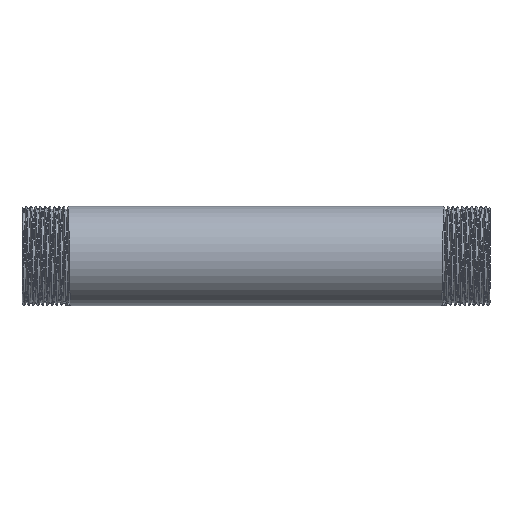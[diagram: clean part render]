
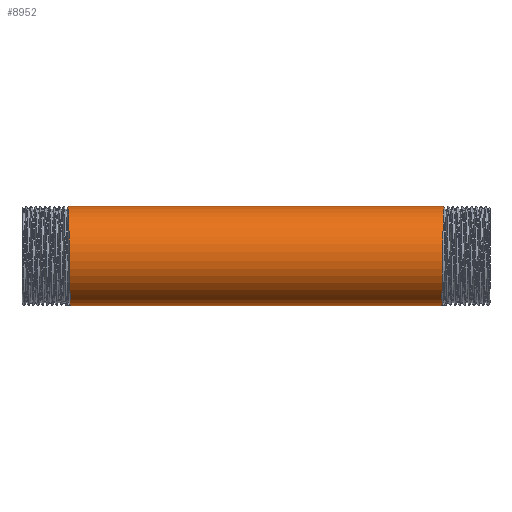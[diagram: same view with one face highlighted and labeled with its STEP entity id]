
A CAD part, front view. The second image highlights one B-rep face of the part: STEP entity #8952.
In plain terms, the highlighted cylindrical face has radius 21.2 mm (diameter 42.4 mm), a partial arc.
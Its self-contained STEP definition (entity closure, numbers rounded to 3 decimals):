
#660 = CARTESIAN_POINT ( 'NONE',  ( 79.95, -18.034, 13.102 ) ) ;
#959 = ORIENTED_EDGE ( 'NONE', *, *, #2926, .F. ) ;
#967 = ORIENTED_EDGE ( 'NONE', *, *, #2852, .T. ) ;
#1470 = DIRECTION ( 'NONE',  ( -1., 0., 0. ) ) ;
#1952 = CARTESIAN_POINT ( 'NONE',  ( -79.25, 0., -21.2 ) ) ;
#2092 = CARTESIAN_POINT ( 'NONE',  ( 80.25, 0., 21.2 ) ) ;
#2140 = CARTESIAN_POINT ( 'NONE',  ( -80.05, -12.461, 17.151 ) ) ;
#2211 = CYLINDRICAL_SURFACE ( 'NONE', #6975, 21.2 ) ;
#2386 = LINE ( 'NONE', #5383, #2625 ) ;
#2625 = VECTOR ( 'NONE', #3124, 1000. ) ;
#2655 = EDGE_LOOP ( 'NONE', ( #959, #967, #2881, #6665 ) ) ;
#2852 = EDGE_CURVE ( 'NONE', #8132, #6094, #8875, .T. ) ;
#2881 = ORIENTED_EDGE ( 'NONE', *, *, #5175, .T. ) ;
#2926 = EDGE_CURVE ( 'NONE', #8132, #9568, #7348, .T. ) ;
#3124 = DIRECTION ( 'NONE',  ( -1., 0., 0. ) ) ;
#3195 = VERTEX_POINT ( 'NONE', #6067 ) ;
#3473 = DIRECTION ( 'NONE',  ( -1., 0., 0. ) ) ;
#3576 = CARTESIAN_POINT ( 'NONE',  ( 79.25, 0., -21.2 ) ) ;
#3672 = CARTESIAN_POINT ( 'NONE',  ( 80.15, -6.888, 21.2 ) ) ;
#4161 = CARTESIAN_POINT ( 'NONE',  ( -79.25, 0., -21.2 ) ) ;
#5132 = CARTESIAN_POINT ( 'NONE',  ( -80.25, 0., 21.2 ) ) ;
#5175 = EDGE_CURVE ( 'NONE', #6094, #3195, #2386, .T. ) ;
#5203 = DIRECTION ( 'NONE',  ( 0., 0., 1. ) ) ;
#5383 = CARTESIAN_POINT ( 'NONE',  ( -149.494, 0., 21.2 ) ) ;
#5460 = CARTESIAN_POINT ( 'NONE',  ( 80.25, 0., 21.2 ) ) ;
#5683 = CARTESIAN_POINT ( 'NONE',  ( -79.45, -12.461, -17.151 ) ) ;
#5731 = CARTESIAN_POINT ( 'NONE',  ( -79.75, -22.291, 0. ) ) ;
#5775 = CARTESIAN_POINT ( 'NONE',  ( -79.65, -20.162, -6.551 ) ) ;
#5829 = CARTESIAN_POINT ( 'NONE',  ( 79.65, -20.162, -6.551 ) ) ;
#6067 = CARTESIAN_POINT ( 'NONE',  ( -80.25, 0., 21.2 ) ) ;
#6094 = VERTEX_POINT ( 'NONE', #5460 ) ;
#6203 = CARTESIAN_POINT ( 'NONE',  ( 79.25, 0., -21.2 ) ) ;
#6509 = CARTESIAN_POINT ( 'NONE',  ( -79.85, -20.162, 6.551 ) ) ;
#6582 = FACE_OUTER_BOUND ( 'NONE', #2655, .T. ) ;
#6610 = CARTESIAN_POINT ( 'NONE',  ( -79.95, -18.034, 13.102 ) ) ;
#6660 = CARTESIAN_POINT ( 'NONE',  ( 79.55, -18.034, -13.102 ) ) ;
#6665 = ORIENTED_EDGE ( 'NONE', *, *, #9611, .F. ) ;
#6975 = AXIS2_PLACEMENT_3D ( 'NONE', #8929, #1470, #5203 ) ;
#7107 = CARTESIAN_POINT ( 'NONE',  ( -79.55, -18.034, -13.102 ) ) ;
#7348 = LINE ( 'NONE', #9657, #7951 ) ;
#7394 = CARTESIAN_POINT ( 'NONE',  ( 79.75, -22.291, 0. ) ) ;
#7441 = CARTESIAN_POINT ( 'NONE',  ( 79.35, -6.888, -21.2 ) ) ;
#7951 = VECTOR ( 'NONE', #3473, 1000. ) ;
#8079 = CARTESIAN_POINT ( 'NONE',  ( -80.15, -6.888, 21.2 ) ) ;
#8132 = VERTEX_POINT ( 'NONE', #6203 ) ;
#8173 = CARTESIAN_POINT ( 'NONE',  ( 79.45, -12.461, -17.151 ) ) ;
#8817 = CARTESIAN_POINT ( 'NONE',  ( 79.85, -20.162, 6.551 ) ) ;
#8875 =( BOUNDED_CURVE ( )  B_SPLINE_CURVE ( 2, ( #3576, #7441, #8173, #6660, #5829, #7394, #8817, #660, #8912, #3672, #2092 ),
 .UNSPECIFIED., .F., .T. ) 
 B_SPLINE_CURVE_WITH_KNOTS ( ( 3, 2, 2, 2, 2, 3 ),
 ( 0., 0.008, 0.017, 0.025, 0.033, 0.042 ),
 .UNSPECIFIED. ) 
 CURVE ( )  GEOMETRIC_REPRESENTATION_ITEM ( )  RATIONAL_B_SPLINE_CURVE ( ( 1., 0.951, 1., 0.951, 1., 0.951, 1., 0.951, 1., 0.951, 1. ) ) 
 REPRESENTATION_ITEM ( '' )  );
#8912 = CARTESIAN_POINT ( 'NONE',  ( 80.05, -12.461, 17.151 ) ) ;
#8929 = CARTESIAN_POINT ( 'NONE',  ( -149.494, 0., 0. ) ) ;
#8952 = ADVANCED_FACE ( 'NONE', ( #6582 ), #2211, .T. ) ;
#9139 =( BOUNDED_CURVE ( )  B_SPLINE_CURVE ( 2, ( #1952, #9414, #5683, #7107, #5775, #5731, #6509, #6610, #2140, #8079, #5132 ),
 .UNSPECIFIED., .F., .T. ) 
 B_SPLINE_CURVE_WITH_KNOTS ( ( 3, 2, 2, 2, 2, 3 ),
 ( 0., 0.008, 0.017, 0.025, 0.033, 0.042 ),
 .UNSPECIFIED. ) 
 CURVE ( )  GEOMETRIC_REPRESENTATION_ITEM ( )  RATIONAL_B_SPLINE_CURVE ( ( 1., 0.951, 1., 0.951, 1., 0.951, 1., 0.951, 1., 0.951, 1. ) ) 
 REPRESENTATION_ITEM ( '' )  );
#9414 = CARTESIAN_POINT ( 'NONE',  ( -79.35, -6.888, -21.2 ) ) ;
#9568 = VERTEX_POINT ( 'NONE', #4161 ) ;
#9611 = EDGE_CURVE ( 'NONE', #9568, #3195, #9139, .T. ) ;
#9657 = CARTESIAN_POINT ( 'NONE',  ( -149.494, 0., -21.2 ) ) ;
